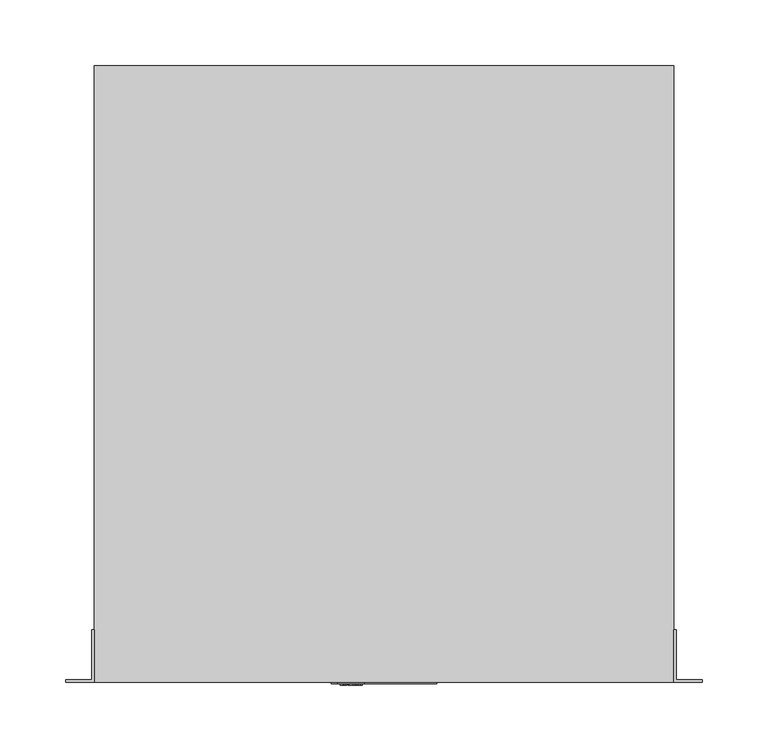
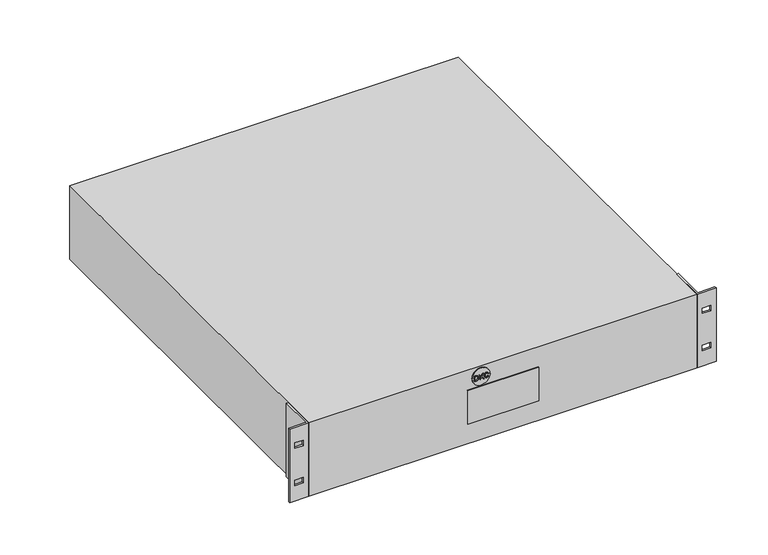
"""IFC4 building model written with IfcOpenShell, lengths in millimetres: proxy geometry, НВО_КНС_ОнлайнИБПSmallRackmount_DKC : 1000 ВА."""

from ifc_helpers import new_model, si_unit, point, frame, frame_2d, origin, origin_with_axes, place, context, project, spatial, polyline, circle_curve, trimmed, segment, composite_curve, outline, extrude, faceted_brep, source, transform, mapped, element, save


def electrical_equipment_acf2c5a4(model_context):
    return source(origin(), model_context, "Body", "SolidModel", [
        extrude(outline(polyline([(73.0, -33.1463789), (73.0, -30.967046), (73.103007, -29.9980448), (73.9520786, -28.7273804), (74.829845, -28.3153525), (76.0460629, -28.154956), (77.4793312, -28.391872), (78.5094008, -29.1055631), (78.9405585, -29.9914229), (79.0273786, -31.0671099), (79.0273786, -33.1463789), (73.0, -33.1463789)]), holes=[polyline([(73.7534223, -32.3929566), (78.2739563, -32.3929566), (78.2739563, -31.0803536), (78.153291, -30.0120243), (77.4852173, -29.2299072), (76.0578351, -28.9083783), (74.9181367, -29.0724537), (73.8623154, -30.0900153), (73.7534223, -31.0597522), (73.7534223, -32.3929566)])]), frame((0.0, -2.0, 0.0), z_axis=(0.0, 1.0, 0.0), x_axis=(0.0, 0.0, 1.0)), (0.0, 0.0, 1.0), 6.0),
        extrude(outline(polyline([(73.0, -26.7422891), (75.0719114, -26.365578), (76.0401768, -25.3502237), (73.0, -23.0487539), (73.0, -22.1275774), (76.5493255, -24.816059), (79.0273786, -22.2217552), (79.0273786, -23.2753692), (76.076965, -26.365578), (79.0273786, -27.1190003), (73.0, -26.7422891)])), frame((0.0, -2.0, 0.0), z_axis=(0.0, 1.0, 0.0), x_axis=(0.0, 0.0, 1.0)), (0.0, 0.0, 1.0), 6.0),
        extrude(outline(polyline([(75.1425447, -17.3245101), (74.0330126, -17.963889), (73.6592445, -19.1168311), (73.9336845, -20.1564657), (74.7628905, -20.8642706), (76.0607782, -21.0916217), (77.180611, -20.8995873), (78.0458694, -20.2337209), (78.3681341, -19.055027), (78.0775073, -18.0367296), (77.3307068, -16.6652655), (78.652139, -17.5165445), (79.1215564, -19.0255964), (78.7588248, -20.4735799), (77.6971173, -21.4881985), (76.0593067, -21.845044), (74.4479835, -21.5294013), (73.3016632, -20.6096963), (72.9058222, -19.0417832), (73.4289504, -17.4643052), (75.1425447, -17.3245101)])), frame((0.0, -2.0, 0.0), z_axis=(0.0, 1.0, 0.0), x_axis=(0.0, 0.0, 1.0)), (0.0, 0.0, 1.0), 6.0),
        extrude(outline(composite_curve([segment(trimmed(circle_curve(frame_2d((76.0, -25.0)), 10.0), [point((76.0, -35.0))], [point((76.0, -15.0))], False, "CARTESIAN"), True, "CONTINUOUS"), segment(trimmed(circle_curve(frame_2d((76.0, -25.0)), 10.0), [point((76.0, -15.0))], [point((76.0, -35.0))], False, "CARTESIAN"), True, "CONTINUOUS")], self_intersect=False)), frame((0.0, -1.0, 0.0), z_axis=(0.0, 1.0, 0.0), x_axis=(0.0, 0.0, 1.0)), (0.0, 0.0, 1.0), 10.0),
        faceted_brep([(220.0, 0.0, 88.0), (241.5, 0.0, 88.0), (241.5, 2.0, 88.0), (222.0, 2.0, 88.0), (222.0, 40.0, 88.0), (220.0, 40.0, 88.0), (220.0, 0.0, 0.0), (220.0, 40.0, 0.0), (222.0, 40.0, 0.0), (222.0, 2.0, 0.0), (241.5, 2.0, 0.0), (241.5, 0.0, 0.0), (225.75, 0.0, 25.025), (235.75, 0.0, 25.025), (235.75, 0.0, 18.525), (225.75, 0.0, 18.525), (225.75, 0.0, 69.475), (235.75, 0.0, 69.475), (235.75, 0.0, 62.975), (225.75, 0.0, 62.975), (235.75, 2.0, 25.025), (225.75, 2.0, 25.025), (225.75, 2.0, 18.525), (235.75, 2.0, 18.525), (235.75, 2.0, 69.475), (225.75, 2.0, 69.475), (225.75, 2.0, 62.975), (235.75, 2.0, 62.975)], [[[0, 1, 2, 3, 4, 5]], [[6, 7, 8, 9, 10, 11]], [[1, 0, 6, 11], [12, 13, 14, 15], [16, 17, 18, 19]], [[2, 1, 11, 10]], [[3, 2, 10, 9], [20, 21, 22, 23], [24, 25, 26, 27]], [[4, 3, 9, 8]], [[5, 4, 8, 7]], [[0, 5, 7, 6]], [[16, 25, 24, 17]], [[25, 16, 19, 26]], [[26, 19, 18, 27]], [[17, 24, 27, 18]], [[12, 21, 20, 13]], [[21, 12, 15, 22]], [[22, 15, 14, 23]], [[13, 20, 23, 14]]]),
        faceted_brep([(-222.0, 2.0, 88.0), (-241.5, 2.0, 88.0), (-241.5, 0.0, 88.0), (-220.0, 0.0, 88.0), (-220.0, 40.0, 88.0), (-222.0, 40.0, 88.0), (-222.0, 2.0, 0.0), (-222.0, 40.0, 0.0), (-220.0, 40.0, 0.0), (-220.0, 0.0, 0.0), (-241.5, 0.0, 0.0), (-241.5, 2.0, 0.0), (-225.75, 2.0, 69.475), (-235.75, 2.0, 69.475), (-235.75, 2.0, 62.975), (-225.75, 2.0, 62.975), (-225.75, 2.0, 25.025), (-235.75, 2.0, 25.025), (-235.75, 2.0, 18.525), (-225.75, 2.0, 18.525), (-235.75, 0.0, 69.475), (-225.75, 0.0, 69.475), (-225.75, 0.0, 62.975), (-235.75, 0.0, 62.975), (-235.75, 0.0, 25.025), (-225.75, 0.0, 25.025), (-225.75, 0.0, 18.525), (-235.75, 0.0, 18.525)], [[[0, 1, 2, 3, 4, 5]], [[6, 7, 8, 9, 10, 11]], [[1, 0, 6, 11], [12, 13, 14, 15], [16, 17, 18, 19]], [[2, 1, 11, 10]], [[3, 2, 10, 9], [20, 21, 22, 23], [24, 25, 26, 27]], [[4, 3, 9, 8]], [[5, 4, 8, 7]], [[0, 5, 7, 6]], [[20, 13, 12, 21]], [[13, 20, 23, 14]], [[14, 23, 22, 15]], [[21, 12, 15, 22]], [[24, 17, 16, 25]], [[17, 24, 27, 18]], [[18, 27, 26, 19]], [[25, 16, 19, 26]]]),
        extrude(outline(polyline([(40.0, -1.0), (-40.0, -1.0), (-40.0, 0.0), (40.0, 0.0), (40.0, -1.0)])), frame((0.0, 0.0, 24.0), z_axis=(0.0, 0.0, 1.0), x_axis=(1.0, 0.0, 0.0)), (0.0, 0.0, 1.0), 40.0),
        extrude(outline(polyline([(220.0, 0.0), (-220.0, 0.0), (-220.0, 468.0), (220.0, 468.0), (220.0, 0.0)])), origin_with_axes(), (0.0, 0.0, 1.0), 88.0),
    ])


if __name__ == "__main__":
    model = new_model("IFC4")
    model_context = context("Model", 3, world=origin())
    ifc_project = project(units=[si_unit("LENGTHUNIT", "METRE", prefix="MILLI")], contexts=[model_context])
    site = spatial("IfcSite", under=ifc_project)
    building = spatial("IfcBuilding", under=site)
    placement = place(None, origin())
    electrical_equipment_shape = electrical_equipment_acf2c5a4(model_context)
    element("IfcBuildingElementProxy", 1, Name="НВО_КНС_ОнлайнИБПSmallRackmount_DKC : 1000 ВА", ObjectType="НВО_КНС_ОнлайнИБПSmallRackmount_DKC : 1000 ВА", at=placement, inside=building, context=model_context, shape_type="MappedRepresentation", body=[
        mapped(electrical_equipment_shape, transform((0.0, 0.0, 0.0), x_axis=(1.0, 0.0, 0.0), y_axis=(0.0, 1.0, 0.0), z_axis=(0.0, 0.0, 1.0))),
    ])
    save(model, "model.ifc")
